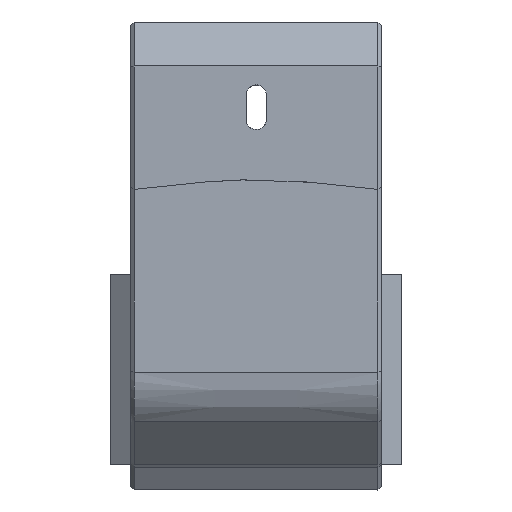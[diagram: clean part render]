
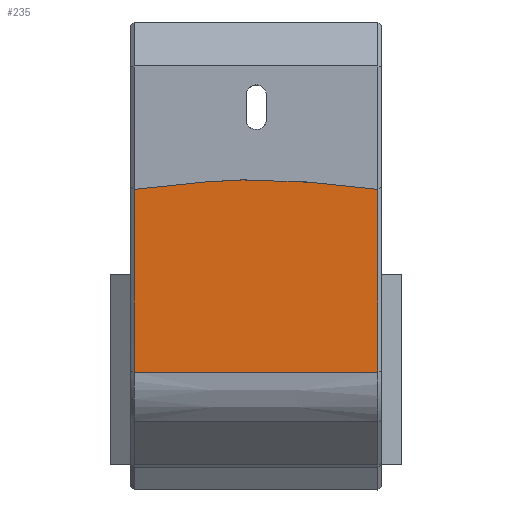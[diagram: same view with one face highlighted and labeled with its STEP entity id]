
A CAD part, top view. The second image highlights one B-rep face of the part: STEP entity #235.
In plain terms, the highlighted face is a extrusion surface.
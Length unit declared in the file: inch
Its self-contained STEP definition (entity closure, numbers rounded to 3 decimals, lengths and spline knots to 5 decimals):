
#41=SURFACE_OF_LINEAR_EXTRUSION('',#882,#198);
#89=FACE_OUTER_BOUND('',#325,.T.);
#151=LINE('',#1746,#196);
#196=VECTOR('',#1017,1.);
#198=VECTOR('',#1019,1.);
#235=ADVANCED_FACE('',(#89),#41,.T.);
#325=EDGE_LOOP('',(#474,#475,#476,#477));
#474=ORIENTED_EDGE('',*,*,#775,.F.);
#475=ORIENTED_EDGE('',*,*,#776,.F.);
#476=ORIENTED_EDGE('',*,*,#777,.T.);
#477=ORIENTED_EDGE('',*,*,#774,.T.);
#673=VERTEX_POINT('',#1520);
#675=VERTEX_POINT('',#1745);
#676=VERTEX_POINT('',#1760);
#677=VERTEX_POINT('',#1780);
#774=EDGE_CURVE('',#673,#675,#151,.T.);
#775=EDGE_CURVE('',#676,#675,#879,.T.);
#776=EDGE_CURVE('',#677,#676,#880,.T.);
#777=EDGE_CURVE('',#677,#673,#881,.T.);
#879=B_SPLINE_CURVE_WITH_KNOTS('',3,(#1751,#1752,#1753,#1754,#1755,#1756,
#1757,#1758,#1759),.UNSPECIFIED.,.F.,.F.,(4,1,1,1,1,1,4),(0.,0.125,0.25,
0.375,0.5,0.75,1.),.UNSPECIFIED.);
#880=B_SPLINE_CURVE_WITH_KNOTS('',3,(#1761,#1762,#1763,#1764,#1765,#1766,
#1767,#1768,#1769,#1770,#1771,#1772,#1773,#1774,#1775,#1776,#1777,#1778,
#1779),.UNSPECIFIED.,.F.,.F.,(4,1,1,1,1,1,1,1,1,1,1,1,1,1,1,1,4),(0.,0.125,
0.25,0.3125,0.32813,0.33594,0.34375,0.375,0.5,0.625,0.65625,0.66406,
0.67188,0.6875,0.75,0.875,1.),.UNSPECIFIED.);
#881=B_SPLINE_CURVE_WITH_KNOTS('',3,(#1781,#1782,#1783,#1784),
 .UNSPECIFIED.,.F.,.F.,(4,4),(0.,1.),.UNSPECIFIED.);
#882=B_SPLINE_CURVE_WITH_KNOTS('',3,(#1785,#1786,#1787,#1788),
 .UNSPECIFIED.,.F.,.F.,(4,4),(0.,1.),.UNSPECIFIED.);
#1017=DIRECTION('',(1.,0.,0.));
#1019=DIRECTION('',(1.,0.,0.));
#1520=CARTESIAN_POINT('',(0.13453,0.51953,0.64144));
#1745=CARTESIAN_POINT('',(1.50546,0.51953,0.64143));
#1746=CARTESIAN_POINT('',(0.13453,0.51953,0.64143));
#1751=CARTESIAN_POINT('',(1.50546,1.60429,0.64146));
#1752=CARTESIAN_POINT('',(1.50546,1.55909,0.64146));
#1753=CARTESIAN_POINT('',(1.50546,1.4687,0.64146));
#1754=CARTESIAN_POINT('',(1.50546,1.3331,0.64146));
#1755=CARTESIAN_POINT('',(1.50546,1.1975,0.64146));
#1756=CARTESIAN_POINT('',(1.50546,1.01671,0.64145));
#1757=CARTESIAN_POINT('',(1.50546,0.79072,0.64145));
#1758=CARTESIAN_POINT('',(1.50546,0.60992,0.64143));
#1759=CARTESIAN_POINT('',(1.50546,0.51953,0.64143));
#1760=CARTESIAN_POINT('',(1.50546,1.60429,0.64146));
#1761=CARTESIAN_POINT('',(0.13453,1.60429,0.64146));
#1762=CARTESIAN_POINT('',(0.19165,1.60429,0.64146));
#1763=CARTESIAN_POINT('',(0.30589,1.60429,0.64146));
#1764=CARTESIAN_POINT('',(0.4487,1.60429,0.64146));
#1765=CARTESIAN_POINT('',(0.54152,1.60429,0.64146));
#1766=CARTESIAN_POINT('',(0.5808,1.60429,0.64146));
#1767=CARTESIAN_POINT('',(0.59508,1.60429,0.64146));
#1768=CARTESIAN_POINT('',(0.6165,1.60429,0.64146));
#1769=CARTESIAN_POINT('',(0.69147,1.60429,0.64146));
#1770=CARTESIAN_POINT('',(0.82,1.60429,0.64146));
#1771=CARTESIAN_POINT('',(0.94852,1.60429,0.64146));
#1772=CARTESIAN_POINT('',(1.02349,1.60429,0.64146));
#1773=CARTESIAN_POINT('',(1.04492,1.60429,0.64146));
#1774=CARTESIAN_POINT('',(1.0592,1.60429,0.64146));
#1775=CARTESIAN_POINT('',(1.09847,1.60429,0.64146));
#1776=CARTESIAN_POINT('',(1.19129,1.60429,0.64146));
#1777=CARTESIAN_POINT('',(1.3341,1.60429,0.64146));
#1778=CARTESIAN_POINT('',(1.44834,1.60429,0.64146));
#1779=CARTESIAN_POINT('',(1.50546,1.60429,0.64146));
#1780=CARTESIAN_POINT('',(0.13453,1.60429,0.64146));
#1781=CARTESIAN_POINT('',(0.13453,1.60429,0.64146));
#1782=CARTESIAN_POINT('',(0.13453,1.2427,0.64146));
#1783=CARTESIAN_POINT('',(0.13453,0.88112,0.64146));
#1784=CARTESIAN_POINT('',(0.13453,0.51953,0.64143));
#1785=CARTESIAN_POINT('',(0.13453,1.60429,0.64146));
#1786=CARTESIAN_POINT('',(0.13453,1.2427,0.64146));
#1787=CARTESIAN_POINT('',(0.13453,0.88112,0.64146));
#1788=CARTESIAN_POINT('',(0.13453,0.51953,0.64143));
